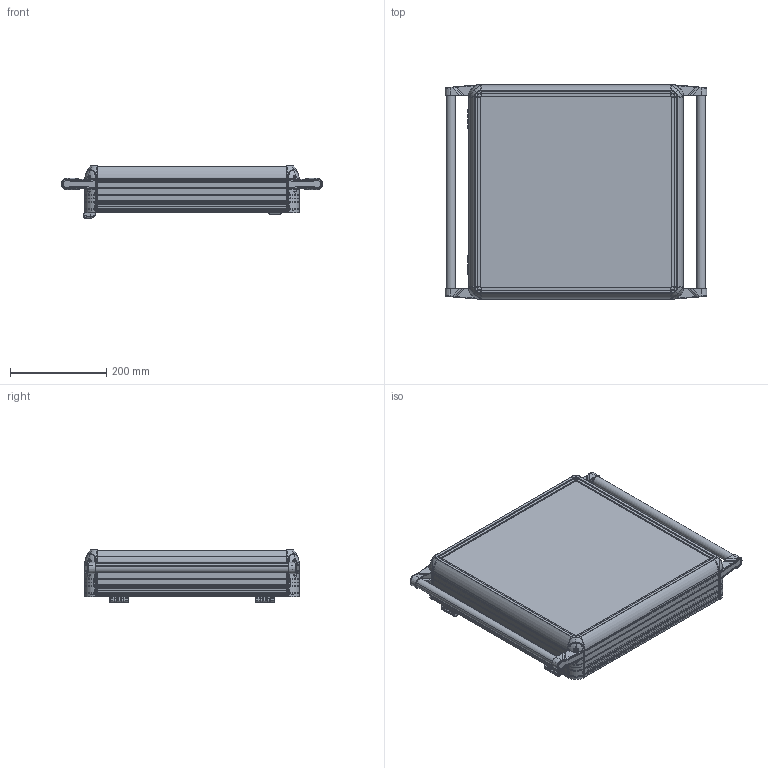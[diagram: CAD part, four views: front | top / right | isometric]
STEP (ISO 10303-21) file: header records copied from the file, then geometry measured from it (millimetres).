
FILE_DESCRIPTION (( 'STEP AP214' ), '1' );
FILE_NAME ('9000-0208.STEP', '2022-09-01T06:34:00', ( '' ), ( '' ), 'SwSTEP 2.0', 'SolidWorks 2022', '' );
FILE_SCHEMA (( 'AUTOMOTIVE_DESIGN' ));
Length unit declared in the file: millimetre
Products named in the file (7): boru_425; 400X400; ECO9000-0100(SOL); ARKA_KAPAK_400X400; ECO9000-0100(SAÐ); 9000-0208; HPECO-090-001-295_395
Assembly tree (12 placements, depth 2):
  9000-0208
    400X400
    ARKA_KAPAK_400X400
    boru_425  x2
    ECO9000-0100(SAÐ)  x2
    ECO9000-0100(SOL)  x2
    HPECO-090-001-295_395  x4
Bounding box: 544.57 x 447 x 109.16 mm (x, y, z)
Volume: 2175308.4 mm3; surface area: 1733088.4 mm2
Topology: 22 solids, 72 shells, 7149 faces, 19120 edges, 11870 vertices
Faces by surface type: plane 2807, cylinder 2096, bspline 1270, cone 590, torus 332, sphere 54
Entity records: 207835 total; most frequent: CARTESIAN_POINT 55969, ORIENTED_EDGE 24066, DIRECTION 20116, EDGE_CURVE 12033, VERTEX_POINT 7474, AXIS2_PLACEMENT_3D 7348, VECTOR 5420, LINE 5420
